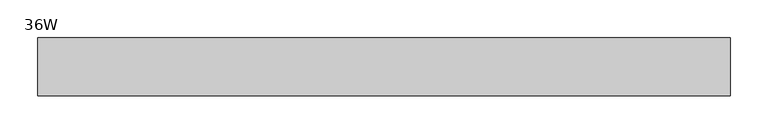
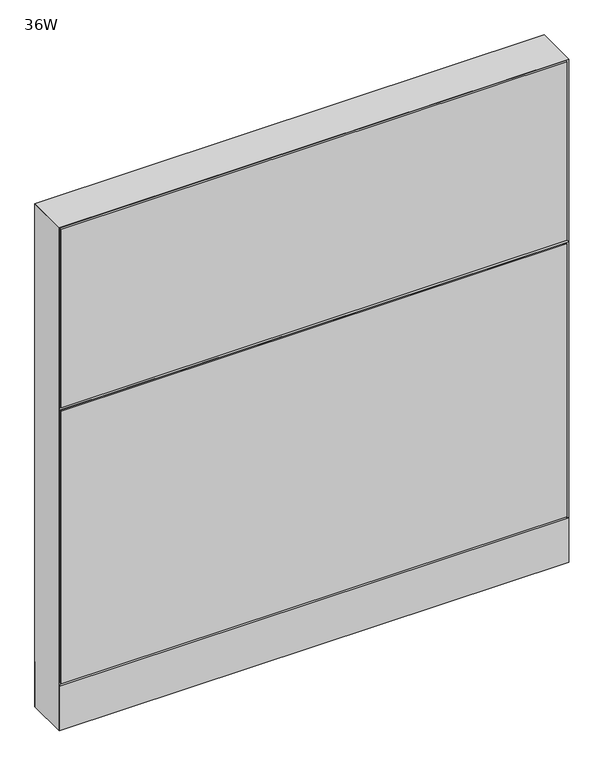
"""IFC4 building model written with IfcOpenShell, lengths in millimetres: furniture geometry, Steelcase - Montage - Frame - 38H - Enhanced Monolithic - Base Cavity : 36W."""

from ifc_helpers import new_model, si_unit, point, frame, frame_2d, origin, origin_with_axes, place, context, project, spatial, polyline, circle_curve, trimmed, segment, composite_curve, outline, extrude, faceted_brep, source, transform, mapped, element, save


def furniture_36w_0b321206(model_context):
    return source(origin(), model_context, "Body", "SolidModel", [
        extrude(outline(polyline([(155.575, 31.7500194), (155.575, 38.1000194), (758.825, 38.1000194), (758.825, 31.7500194), (155.575, 31.7500194)])), frame((0.0, 0.0, 92.075), z_axis=(0.0, 0.0, 1.0), x_axis=(1.0, 0.0, 0.0)), (0.0, 0.0, 1.0), 863.6),
        faceted_brep([(0.0, -38.1026297, 612.775), (914.4, -38.1026297, 612.775), (908.0500047, -31.7526299, 619.1249997), (6.3499917, -31.7526299, 619.1249997), (6.3499917, -31.7526299, 606.4250003), (908.0500047, -31.7526299, 606.4250003)], [[[0, 1, 2, 3]], [[1, 0, 4, 5]], [[3, 2, 5, 4]], [[0, 3, 4]], [[2, 1, 5]]]),
        extrude(outline(polyline([(3.175, -31.7500194), (911.225, -31.7500194), (911.225, -38.1000194), (3.175, -38.1000194), (3.175, -31.7500194)])), frame((0.0, 0.0, 92.075), z_axis=(0.0, 0.0, 1.0), x_axis=(1.0, 0.0, 0.0)), (0.0, 0.0, 1.0), 517.525),
        extrude(outline(polyline([(3.175, -31.7500194), (911.225, -31.7500194), (911.225, -38.1000194), (3.175, -38.1000194), (3.175, -31.7500194)])), frame((0.0, 0.0, 615.95), z_axis=(0.0, 0.0, 1.0), x_axis=(1.0, 0.0, 0.0)), (0.0, 0.0, 1.0), 339.725),
        extrude(outline(polyline([(6.350003, -31.7499985), (908.049997, -31.7499985), (914.4, -38.1000015), (0.0, -38.1000015), (6.350003, -31.7499985)])), frame((0.0, 0.0, 4.064), z_axis=(0.0, 0.0, 1.0), x_axis=(1.0, 0.0, 0.0)), (0.0, 0.0, 1.0), 84.835997),
        extrude(outline(polyline([(6.3500002, 31.7500017), (0.0, 38.1000015), (914.4, 38.1000015), (908.0500002, 31.7500017), (6.3500002, 31.7500017)])), frame((0.0, 0.0, 4.064), z_axis=(0.0, 0.0, 1.0), x_axis=(1.0, 0.0, 0.0)), (0.0, 0.0, 1.0), 84.835997),
        faceted_brep([(908.0499516, -31.749953, 952.4999516), (6.3500484, -31.749953, 952.4999516), (6.3500484, 31.749953, 952.4999516), (908.0499516, 31.749953, 952.4999516), (0.0, -38.1000015, 958.85), (914.4, -38.1000015, 958.85), (914.4, 38.1000015, 958.85), (0.0, 38.1000015, 958.85)], [[[0, 1, 2, 3]], [[4, 5, 6, 7]], [[5, 4, 1, 0]], [[7, 6, 3, 2]], [[1, 4, 7, 2]], [[5, 0, 3, 6]]]),
        extrude(outline(composite_curve([segment(trimmed(circle_curve(frame_2d((44.45, 0.0)), 15.24), [point((29.21, 0.0))], [point((59.69, 0.0))], False, "CARTESIAN"), True, "CONTINUOUS"), segment(trimmed(circle_curve(frame_2d((44.45, 0.0)), 15.24), [point((59.69, 0.0))], [point((29.21, 0.0))], False, "CARTESIAN"), True, "CONTINUOUS")], self_intersect=False)), origin_with_axes(), (0.0, 0.0, 1.0), 4.064),
        extrude(outline(composite_curve([segment(trimmed(circle_curve(frame_2d((869.95, 0.0)), 15.24), [point((854.71, 0.0))], [point((885.19, 0.0))], False, "CARTESIAN"), True, "CONTINUOUS"), segment(trimmed(circle_curve(frame_2d((869.95, 0.0)), 15.24), [point((885.19, 0.0))], [point((854.71, 0.0))], False, "CARTESIAN"), True, "CONTINUOUS")], self_intersect=False)), origin_with_axes(), (0.0, 0.0, 1.0), 4.064),
        faceted_brep([(914.4, -38.1000106, 4.064), (914.4, 38.1000015, 4.064), (914.4, 38.1000015, 958.85), (914.4, -38.1000106, 958.8499637), (0.0, 38.1000015, 4.064), (0.0, -38.1000015, 4.064), (0.0, -38.1000015, 958.85), (0.0, 38.1000015, 958.85), (908.0499879, 31.7500017, 619.125), (6.35, 31.7500017, 619.125), (6.35, -31.7499985, 619.125), (908.0499879, -31.7499985, 619.125), (6.35, 31.7500017, 606.425), (908.0499879, 31.7500017, 606.425), (908.0499879, -31.7499985, 606.425), (6.35, -31.7499985, 606.425), (6.35, 31.7500015, 4.064), (6.35, -31.7500015, 4.064), (908.0499879, 31.7499894, 4.064), (908.0499879, -31.7499985, 4.064), (6.35, 31.7500015, 952.5), (6.35, -31.7500015, 952.5), (908.0499879, -31.7499985, 952.4999516), (908.0499879, 31.7499896, 952.4999516)], [[[0, 1, 2, 3]], [[4, 5, 6, 7]], [[8, 9, 10, 11]], [[12, 13, 14, 15]], [[16, 17, 5, 4]], [[18, 1, 0, 19]], [[17, 16, 12, 15]], [[10, 9, 20, 21]], [[18, 19, 14, 13]], [[8, 11, 22, 23]], [[16, 4, 7, 20, 9, 12]], [[5, 17, 15, 10, 21, 6]], [[19, 0, 3, 22, 11, 14]], [[1, 18, 13, 8, 23, 2]], [[7, 6, 21, 20]], [[3, 2, 23, 22]], [[13, 12, 9, 8]], [[11, 10, 15, 14]]]),
    ])


if __name__ == "__main__":
    model = new_model("IFC4")
    model_context = context("Model", 3, world=origin())
    ifc_project = project(units=[si_unit("LENGTHUNIT", "METRE", prefix="MILLI")], contexts=[model_context])
    site = spatial("IfcSite", under=ifc_project)
    building = spatial("IfcBuilding", under=site)
    placement = place(None, origin())
    furniture_36w_shape = furniture_36w_0b321206(model_context)
    element("IfcFurniture", 1, ObjectType="Steelcase - Montage - Frame - 38H - Enhanced Monolithic - Base Cavity : 36W", at=placement, inside=building, context=model_context, shape_type="MappedRepresentation", body=[
        mapped(furniture_36w_shape, transform((0.0, 0.0, 0.0), x_axis=(1.0, 0.0, 0.0), y_axis=(0.0, 1.0, 0.0), z_axis=(0.0, 0.0, 1.0))),
    ])
    save(model, "model.ifc")
